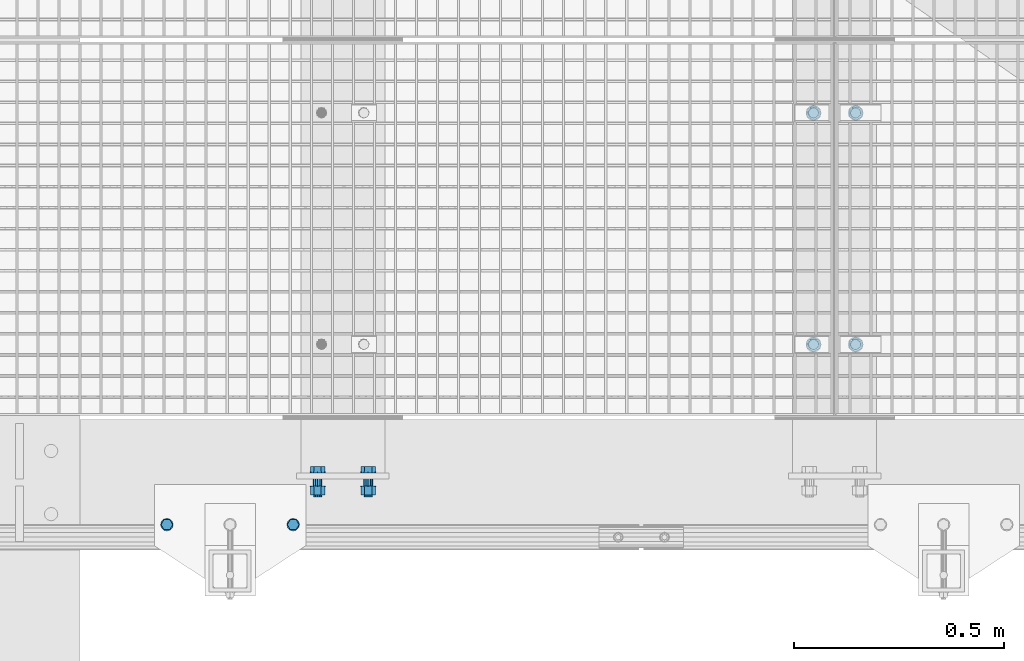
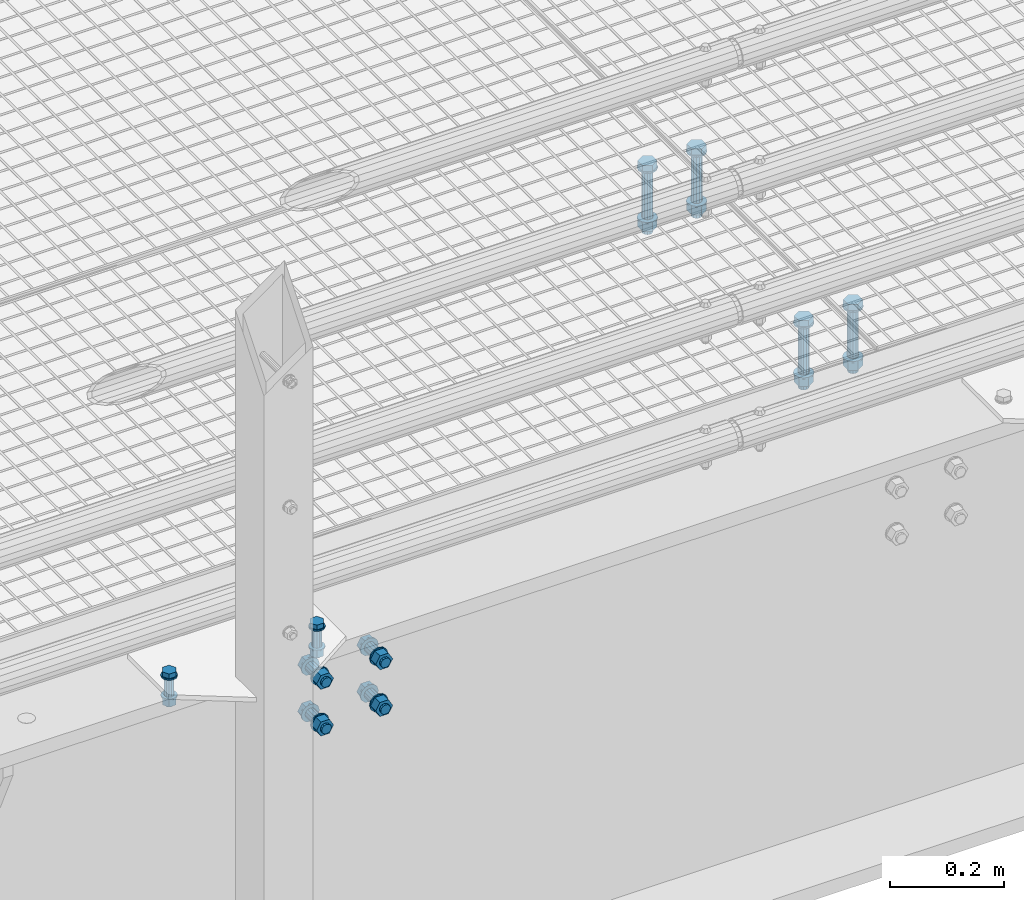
# One storey, part 24 of 1530: 4 mechanical fasteners.
"""IFC2X3 building model written with IfcOpenShell, lengths in millimetres."""

from ifc_helpers import new_model, si_unit, frame, origin_with_axes, place, context, subcontext, project, spatial, faceted_brep, source, transform, mapped, material, type_object, element, save


model = new_model("IFC2X3")

# Units and contexts
model_context = context("Model", 3, precision=1e-05, world=origin_with_axes())
body_context = subcontext(model_context, "Body", "Model", "MODEL_VIEW")
ifc_project = project(units=[si_unit("LENGTHUNIT", "METRE", prefix="MILLI"), si_unit("AREAUNIT", "SQUARE_METRE"), si_unit("VOLUMEUNIT", "CUBIC_METRE"), si_unit("MASSUNIT", "GRAM", prefix="KILO"), si_unit("TIMEUNIT", "SECOND"), si_unit("PLANEANGLEUNIT", "RADIAN"), si_unit("SOLIDANGLEUNIT", "STERADIAN"), si_unit("THERMODYNAMICTEMPERATUREUNIT", "DEGREE_CELSIUS"), si_unit("LUMINOUSINTENSITYUNIT", "LUMEN")], contexts=[model_context])

# Site, building, storey
site_placement = place(None, origin_with_axes())
site = spatial("IfcSite", under=ifc_project, at=site_placement, Name="Brattvåg", CompositionType="ELEMENT")
building_placement = place(site_placement, origin_with_axes())
building = spatial("IfcBuilding", under=site, at=building_placement, Name="Undefined", CompositionType="ELEMENT")
storey_placement = place(building_placement, origin_with_axes())
storey = spatial("IfcBuildingStorey", under=building, at=storey_placement, Name="Undefined", CompositionType="ELEMENT", Elevation=0.0)

# Mechanical fasteners
ifc_material = material(Name="8")
mechanical_fastener_type = type_object("IfcMechanicalFastenerType", Name="Bolt assembly")
shared_shape_1 = source(origin_with_axes(), body_context, "Body", "Brep", [
    faceted_brep([(17.3205080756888, -10.5, 0.0), (8.66025403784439, -10.5, 15.0), (-8.66025403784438, -10.5, 15.0), (-17.3205080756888, -10.5, 2.12115047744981e-15), (-8.66025403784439, -10.5, -15.0), (8.66025403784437, -10.5, -15.0), (8.66025403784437, 2.0, -15.0), (-8.66025403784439, 2.0, -15.0), (-17.3205080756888, 2.0, 2.12115047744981e-15), (-8.66025403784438, 2.0, 15.0), (8.66025403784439, 2.0, 15.0), (17.3205080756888, 2.0, 0.0), (10.0, 2.0, 0.0), (8.66025403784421, 2.0, 5.0000000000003), (4.9999999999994, 2.0, 8.66025403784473), (-1.03633598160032e-12, 2.0, 10.0), (-5.00000000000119, 2.0, 8.6602540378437), (-8.66025403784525, 2.0, 4.99999999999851), (-10.0, 2.0, -2.07267196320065e-12), (-8.66025403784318, 2.0, -5.00000000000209), (-4.99999999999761, 2.0, -8.66025403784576), (3.09790571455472e-12, 2.0, -10.0), (5.00000000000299, 2.0, -8.66025403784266), (8.66025403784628, 2.0, -4.99999999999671), (8.66025403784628, 142.0, -4.99999999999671), (5.00000000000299, 142.0, -8.66025403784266), (3.09790571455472e-12, 142.0, -10.0), (-4.99999999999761, 142.0, -8.66025403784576), (-8.66025403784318, 142.0, -5.00000000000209), (-10.0, 142.0, -2.07267196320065e-12), (-8.66025403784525, 142.0, 4.99999999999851), (-5.00000000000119, 142.0, 8.6602540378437), (-1.03633598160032e-12, 142.0, 10.0), (4.9999999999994, 142.0, 8.66025403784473), (8.66025403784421, 142.0, 5.0000000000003), (10.0, 142.0, 0.0), (18.5, 2.0, 0.0), (16.0214699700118, 2.0, 9.25000000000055), (9.2499999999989, 2.0, 16.0214699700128), (-1.9172215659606e-12, 2.0, 18.5), (-9.25000000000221, 2.0, 16.0214699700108), (-16.0214699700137, 2.0, 9.24999999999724), (-18.5, 2.0, -3.83444313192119e-12), (-16.0214699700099, 2.0, -9.25000000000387), (-9.24999999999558, 2.0, -16.0214699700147), (5.73112557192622e-12, 2.0, -18.5), (9.25000000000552, 2.0, -16.0214699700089), (16.0214699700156, 2.0, -9.24999999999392), (16.0214699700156, 5.0, -9.24999999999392), (9.25000000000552, 5.0, -16.0214699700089), (5.73112557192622e-12, 5.0, -18.5), (-9.24999999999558, 5.0, -16.0214699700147), (-16.0214699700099, 5.0, -9.25000000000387), (-18.5, 5.0, -3.83444313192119e-12), (-16.0214699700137, 5.0, 9.24999999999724), (-9.25000000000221, 5.0, 16.0214699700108), (-1.9172215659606e-12, 5.0, 18.5), (9.2499999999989, 5.0, 16.0214699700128), (16.0214699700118, 5.0, 9.25000000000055), (18.5, 5.0, 0.0), (18.5, 109.998931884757, 0.0), (16.0214699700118, 109.998931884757, 9.25000000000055), (9.2499999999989, 109.998931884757, 16.0214699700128), (-1.9172215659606e-12, 109.998931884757, 18.5), (-9.25000000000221, 109.998931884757, 16.0214699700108), (-16.0214699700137, 109.998931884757, 9.24999999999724), (-18.5, 109.998931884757, -3.83444313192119e-12), (-16.0214699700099, 109.998931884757, -9.25000000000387), (-9.24999999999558, 109.998931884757, -16.0214699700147), (5.73112557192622e-12, 109.998931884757, -18.5), (9.25000000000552, 109.998931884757, -16.0214699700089), (16.0214699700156, 109.998931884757, -9.24999999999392), (16.0214699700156, 112.998931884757, -9.24999999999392), (9.25000000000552, 112.998931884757, -16.0214699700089), (5.73112557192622e-12, 112.998931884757, -18.5), (-9.24999999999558, 112.998931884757, -16.0214699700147), (-16.0214699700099, 112.998931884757, -9.25000000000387), (-18.5, 112.998931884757, -3.83444313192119e-12), (-16.0214699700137, 112.998931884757, 9.24999999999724), (-9.25000000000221, 112.998931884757, 16.0214699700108), (-1.9172215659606e-12, 112.998931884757, 18.5), (9.2499999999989, 112.998931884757, 16.0214699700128), (16.0214699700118, 112.998931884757, 9.25000000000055), (18.5, 112.998931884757, 0.0), (17.3205080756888, 112.998931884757, 0.0), (8.66025403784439, 112.998931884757, 15.0), (-8.66025403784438, 112.998931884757, 15.0), (-17.3205080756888, 112.998931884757, 2.12115047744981e-15), (-8.66025403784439, 112.998931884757, -15.0), (8.66025403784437, 112.998931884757, -15.0), (8.66025403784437, 130.998931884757, -15.0), (-8.66025403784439, 130.998931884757, -15.0), (-17.3205080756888, 130.998931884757, 2.12115047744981e-15), (-8.66025403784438, 130.998931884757, 15.0), (8.66025403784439, 130.998931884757, 15.0), (17.3205080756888, 130.998931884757, 0.0)], [[[0, 1, 2, 3, 4, 5]], [[6, 7, 8, 9, 10, 11]], [[0, 11, 10, 1]], [[1, 10, 9, 2]], [[2, 9, 8, 3]], [[3, 8, 7, 4]], [[4, 7, 6, 5]], [[5, 6, 11, 0]], [[12, 13, 14, 15, 16, 17, 18, 19, 20, 21, 22, 23]], [[24, 25, 26, 27, 28, 29, 30, 31, 32, 33, 34, 35]], [[12, 35, 34, 13]], [[13, 34, 33, 14]], [[14, 33, 32, 15]], [[15, 32, 31, 16]], [[16, 31, 30, 17]], [[17, 30, 29, 18]], [[18, 29, 28, 19]], [[19, 28, 27, 20]], [[20, 27, 26, 21]], [[21, 26, 25, 22]], [[22, 25, 24, 23]], [[23, 24, 35, 12]], [[36, 37, 38, 39, 40, 41, 42, 43, 44, 45, 46, 47]], [[48, 49, 50, 51, 52, 53, 54, 55, 56, 57, 58, 59]], [[36, 59, 58, 37]], [[37, 58, 57, 38]], [[38, 57, 56, 39]], [[39, 56, 55, 40]], [[40, 55, 54, 41]], [[41, 54, 53, 42]], [[42, 53, 52, 43]], [[43, 52, 51, 44]], [[44, 51, 50, 45]], [[45, 50, 49, 46]], [[46, 49, 48, 47]], [[47, 48, 59, 36]], [[60, 61, 62, 63, 64, 65, 66, 67, 68, 69, 70, 71]], [[72, 73, 74, 75, 76, 77, 78, 79, 80, 81, 82, 83]], [[60, 83, 82, 61]], [[61, 82, 81, 62]], [[62, 81, 80, 63]], [[63, 80, 79, 64]], [[64, 79, 78, 65]], [[65, 78, 77, 66]], [[66, 77, 76, 67]], [[67, 76, 75, 68]], [[68, 75, 74, 69]], [[69, 74, 73, 70]], [[70, 73, 72, 71]], [[71, 72, 83, 60]], [[84, 85, 86, 87, 88, 89]], [[90, 91, 92, 93, 94, 95]], [[84, 95, 94, 85]], [[85, 94, 93, 86]], [[86, 93, 92, 87]], [[87, 92, 91, 88]], [[88, 91, 90, 89]], [[89, 90, 95, 84]]]),
])
for number, where, z_axis, x_axis, name in (
    (1, (14636.0047793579, 327.919311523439, -25.0), (-1.0, 1.99999855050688e-09, 0.0), (0.0, 1.0, 0.0), "Bolt assembly"),
    (2, (14536.0148773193, 327.920486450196, -25.0), (-1.0, 1.99999855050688e-09, 0.0), (0.0, 1.0, 0.0), "Bolt assembly"),
):
    element("IfcMechanicalFastener", number, at=place(storey_placement, frame(where, z_axis=z_axis, x_axis=x_axis)), inside=storey, type_object=mechanical_fastener_type, material=ifc_material, Name=name, NominalDiameter=20.0, NominalLength=140.0, context=body_context, shape_type="MappedRepresentation", body=[
        mapped(shared_shape_1, transform((0.0, 0.0, 0.0))),
        mapped(shared_shape_1, transform((549.999999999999, 0.0, 0.0))),
    ])
shared_shape_2 = source(origin_with_axes(), body_context, "Body", "Brep", [
    faceted_brep([(13.856406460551, -13.0, 0.0), (6.92820323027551, -13.0, 12.0), (-6.92820323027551, -13.0, 12.0), (-13.856406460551, -13.0, 1.69692038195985e-15), (-6.92820323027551, -13.0, -12.0), (6.9282032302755, -13.0, -12.0), (6.9282032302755, -3.0, -12.0), (-6.92820323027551, -3.0, -12.0), (-13.856406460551, -3.0, 1.69692038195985e-15), (-6.92820323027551, -3.0, 12.0), (6.92820323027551, -3.0, 12.0), (13.856406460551, -3.0, 0.0), (8.0, -3.0, 0.0), (6.92820323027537, -3.0, 4.00000000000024), (3.99999999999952, -3.0, 6.92820323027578), (-8.29068785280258e-13, -3.0, 8.0), (-4.00000000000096, -3.0, 6.92820323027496), (-6.9282032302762, -3.0, 3.99999999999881), (-8.0, -3.0, -1.65813757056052e-12), (-6.92820323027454, -3.0, -4.00000000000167), (-3.99999999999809, -3.0, -6.92820323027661), (2.47832457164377e-12, -3.0, -8.0), (4.00000000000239, -3.0, -6.92820323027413), (6.92820323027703, -3.0, -3.99999999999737), (6.92820323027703, 62.0000000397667, -3.99999999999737), (4.00000000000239, 62.0000000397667, -6.92820323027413), (2.47832457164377e-12, 62.0000000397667, -8.0), (-3.99999999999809, 62.0000000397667, -6.92820323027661), (-6.92820323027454, 62.0000000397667, -4.00000000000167), (-8.0, 62.0000000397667, -1.65813757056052e-12), (-6.9282032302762, 62.0000000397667, 3.99999999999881), (-4.00000000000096, 62.0000000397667, 6.92820323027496), (-8.29068785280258e-13, 62.0000000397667, 8.0), (3.99999999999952, 62.0000000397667, 6.92820323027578), (6.92820323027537, 62.0000000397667, 4.00000000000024), (8.0, 62.0000000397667, 0.0), (15.0, -3.0, 0.0), (12.9903810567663, -3.0, 7.50000000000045), (7.4999999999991, -3.0, 12.9903810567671), (-1.55450397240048e-12, -3.0, 15.0), (-7.50000000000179, -3.0, 12.9903810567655), (-12.9903810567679, -3.0, 7.49999999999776), (-15.0, -3.0, -3.10900794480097e-12), (-12.9903810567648, -3.0, -7.50000000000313), (-7.49999999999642, -3.0, -12.9903810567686), (4.64685857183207e-12, -3.0, -15.0), (7.50000000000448, -3.0, -12.990381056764), (12.9903810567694, -3.0, -7.49999999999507), (12.9903810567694, 0.0, -7.49999999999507), (7.50000000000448, 0.0, -12.990381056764), (0.0, 0.0, -15.0), (-7.49999999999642, 0.0, -12.9903810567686), (-12.9903810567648, 0.0, -7.50000000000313), (-15.0, 0.0, -3.10900794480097e-12), (-12.9903810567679, 0.0, 7.49999999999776), (-7.50000000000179, 0.0, 12.9903810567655), (0.0, 0.0, 15.0), (7.4999999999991, 0.0, 12.9903810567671), (12.9903810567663, 0.0, 7.50000000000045), (15.0, 0.0, 0.0), (15.0, 39.9997390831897, 0.0), (12.9903810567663, 39.9997390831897, 7.50000000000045), (7.4999999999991, 39.9997390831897, 12.9903810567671), (-1.55450397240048e-12, 39.9997390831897, 15.0), (-7.50000000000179, 39.9997390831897, 12.9903810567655), (-12.9903810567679, 39.9997390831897, 7.49999999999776), (-15.0, 39.9997390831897, -3.10900794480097e-12), (-12.9903810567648, 39.9997390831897, -7.50000000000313), (-7.49999999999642, 39.9997390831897, -12.9903810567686), (4.64685857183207e-12, 39.9997390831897, -15.0), (7.50000000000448, 39.9997390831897, -12.990381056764), (12.9903810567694, 39.9997390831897, -7.49999999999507), (12.9903810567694, 42.9997390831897, -7.49999999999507), (7.50000000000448, 42.9997390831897, -12.990381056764), (4.64685857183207e-12, 42.9997390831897, -15.0), (-7.49999999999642, 42.9997390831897, -12.9903810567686), (-12.9903810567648, 42.9997390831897, -7.50000000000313), (-15.0, 42.9997390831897, -3.10900794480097e-12), (-12.9903810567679, 42.9997390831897, 7.49999999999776), (-7.50000000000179, 42.9997390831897, 12.9903810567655), (-1.55450397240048e-12, 42.9997390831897, 15.0), (7.4999999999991, 42.9997390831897, 12.9903810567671), (12.9903810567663, 42.9997390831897, 7.50000000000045), (15.0, 42.9997390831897, 0.0), (13.856406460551, 42.9997390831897, 0.0), (6.92820323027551, 42.9997390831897, 12.0), (-6.92820323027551, 42.9997390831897, 12.0), (-13.856406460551, 42.9997390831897, 1.69692038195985e-15), (-6.92820323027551, 42.9997390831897, -12.0), (6.9282032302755, 42.9997390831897, -12.0), (6.9282032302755, 57.7997392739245, -12.0), (-6.92820323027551, 57.7997392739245, -12.0), (-13.856406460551, 57.7997392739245, 1.69692038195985e-15), (-6.92820323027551, 57.7997392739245, 12.0), (6.92820323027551, 57.7997392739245, 12.0), (13.856406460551, 57.7997392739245, 0.0)], [[[0, 1, 2, 3, 4, 5]], [[6, 7, 8, 9, 10, 11]], [[0, 11, 10, 1]], [[1, 10, 9, 2]], [[2, 9, 8, 3]], [[3, 8, 7, 4]], [[4, 7, 6, 5]], [[5, 6, 11, 0]], [[12, 13, 14, 15, 16, 17, 18, 19, 20, 21, 22, 23]], [[24, 25, 26, 27, 28, 29, 30, 31, 32, 33, 34, 35]], [[12, 35, 34, 13]], [[13, 34, 33, 14]], [[14, 33, 32, 15]], [[15, 32, 31, 16]], [[16, 31, 30, 17]], [[17, 30, 29, 18]], [[18, 29, 28, 19]], [[19, 28, 27, 20]], [[20, 27, 26, 21]], [[21, 26, 25, 22]], [[22, 25, 24, 23]], [[23, 24, 35, 12]], [[36, 37, 38, 39, 40, 41, 42, 43, 44, 45, 46, 47]], [[48, 49, 50, 51, 52, 53, 54, 55, 56, 57, 58, 59]], [[36, 59, 58, 37]], [[37, 58, 57, 38]], [[38, 57, 56, 39]], [[39, 56, 55, 40]], [[40, 55, 54, 41]], [[41, 54, 53, 42]], [[42, 53, 52, 43]], [[43, 52, 51, 44]], [[44, 51, 50, 45]], [[45, 50, 49, 46]], [[46, 49, 48, 47]], [[47, 48, 59, 36]], [[60, 61, 62, 63, 64, 65, 66, 67, 68, 69, 70, 71]], [[72, 73, 74, 75, 76, 77, 78, 79, 80, 81, 82, 83]], [[60, 83, 82, 61]], [[61, 82, 81, 62]], [[62, 81, 80, 63]], [[63, 80, 79, 64]], [[64, 79, 78, 65]], [[65, 78, 77, 66]], [[66, 77, 76, 67]], [[67, 76, 75, 68]], [[68, 75, 74, 69]], [[69, 74, 73, 70]], [[70, 73, 72, 71]], [[71, 72, 83, 60]], [[84, 85, 86, 87, 88, 89]], [[90, 91, 92, 93, 94, 95]], [[84, 95, 94, 85]], [[85, 94, 93, 86]], [[86, 93, 92, 87]], [[87, 92, 91, 88]], [[88, 91, 90, 89]], [[89, 90, 95, 84]]]),
    faceted_brep([(9.0, 0.1, 0.0), (7.79422863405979, 0.1, 4.50000000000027), (4.49999999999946, 0.1, 7.79422863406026), (-9.3270238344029e-13, 0.1, 9.0), (-4.50000000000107, 0.1, 7.79422863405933), (-7.79422863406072, 0.1, 4.49999999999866), (-9.0, 0.1, -1.86540476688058e-12), (-7.79422863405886, 0.1, -4.50000000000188), (-4.49999999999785, 0.1, -7.79422863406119), (2.78811514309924e-12, 0.1, -9.0), (4.50000000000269, 0.1, -7.7942286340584), (7.79422863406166, 0.1, -4.49999999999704), (7.79422863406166, 10.1, -4.49999999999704), (4.50000000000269, 10.1, -7.7942286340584), (2.78811514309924e-12, 10.1, -9.0), (-4.49999999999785, 10.1, -7.79422863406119), (-7.79422863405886, 10.1, -4.50000000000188), (-9.0, 10.1, -1.86540476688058e-12), (-7.79422863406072, 10.1, 4.49999999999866), (-4.50000000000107, 10.1, 7.79422863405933), (-9.3270238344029e-13, 10.1, 9.0), (4.49999999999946, 10.1, 7.79422863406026), (7.79422863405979, 10.1, 4.50000000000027), (9.0, 10.1, 0.0), (9.0, 9.8997390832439, 0.0), (7.79422863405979, 9.8997390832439, 4.50000000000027), (4.49999999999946, 9.8997390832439, 7.79422863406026), (-9.3270238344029e-13, 9.8997390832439, 9.0), (-4.50000000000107, 9.8997390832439, 7.79422863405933), (-7.79422863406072, 9.8997390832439, 4.49999999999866), (-9.0, 9.8997390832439, -1.86540476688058e-12), (-7.79422863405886, 9.8997390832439, -4.50000000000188), (-4.49999999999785, 9.8997390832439, -7.79422863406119), (2.78811514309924e-12, 9.8997390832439, -9.0), (4.50000000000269, 9.8997390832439, -7.7942286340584), (7.79422863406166, 9.8997390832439, -4.49999999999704), (7.79422863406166, 39.9997390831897, -4.49999999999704), (4.50000000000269, 39.9997390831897, -7.7942286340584), (2.78811514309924e-12, 39.9997390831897, -9.0), (-4.49999999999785, 39.9997390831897, -7.79422863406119), (-7.79422863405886, 39.9997390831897, -4.50000000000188), (-9.0, 39.9997390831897, -1.86540476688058e-12), (-7.79422863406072, 39.9997390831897, 4.49999999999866), (-4.50000000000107, 39.9997390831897, 7.79422863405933), (-9.3270238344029e-13, 39.9997390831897, 9.0), (4.49999999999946, 39.9997390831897, 7.79422863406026), (7.79422863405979, 39.9997390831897, 4.50000000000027), (9.0, 39.9997390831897, 0.0)], [[[0, 1, 2, 3, 4, 5, 6, 7, 8, 9, 10, 11]], [[12, 13, 14, 15, 16, 17, 18, 19, 20, 21, 22, 23]], [[0, 23, 22, 1]], [[1, 22, 21, 2]], [[2, 21, 20, 3]], [[3, 20, 19, 4]], [[4, 19, 18, 5]], [[5, 18, 17, 6]], [[6, 17, 16, 7]], [[7, 16, 15, 8]], [[8, 15, 14, 9]], [[9, 14, 13, 10]], [[10, 13, 12, 11]], [[11, 12, 23, 0]], [[24, 25, 26, 27, 28, 29, 30, 31, 32, 33, 34, 35]], [[36, 37, 38, 39, 40, 41, 42, 43, 44, 45, 46, 47]], [[24, 47, 46, 25]], [[25, 46, 45, 26]], [[26, 45, 44, 27]], [[27, 44, 43, 28]], [[28, 43, 42, 29]], [[29, 42, 41, 30]], [[30, 41, 40, 31]], [[31, 40, 39, 32]], [[32, 39, 38, 33]], [[33, 38, 37, 34]], [[34, 37, 36, 35]], [[35, 36, 47, 24]]]),
])
mechanical_fastener_1_placement = place(storey_placement, frame((13000.0008086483, -99.9996071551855, 9.99973908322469), z_axis=(0.0, 1.0, 0.0), x_axis=(1.0, 0.0, 0.0)))
element("IfcMechanicalFastener", 3, at=mechanical_fastener_1_placement, inside=storey, type_object=mechanical_fastener_type, material=ifc_material, Name="Bolt assembly", NominalDiameter=16.0, NominalLength=65.0, context=body_context, shape_type="MappedRepresentation", body=[
    mapped(shared_shape_2, transform((0.0, 0.0, 0.0))),
    mapped(shared_shape_2, transform((300.0, 0.0, 0.0))),
])
shared_shape_3 = source(origin_with_axes(), body_context, "Body", "Brep", [
    faceted_brep([(17.3205080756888, -15.5000000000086, 0.0), (8.66025403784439, -15.5000000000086, 15.0), (-8.66025403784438, -15.5000000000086, 15.0), (-17.3205080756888, -15.5000000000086, 2.12115047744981e-15), (-8.66025403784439, -15.5000000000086, -15.0), (8.66025403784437, -15.5000000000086, -15.0), (8.66025403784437, -3.00000000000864, -15.0), (-8.66025403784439, -3.00000000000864, -15.0), (-17.3205080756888, -3.00000000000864, 2.12115047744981e-15), (-8.66025403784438, -3.00000000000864, 15.0), (8.66025403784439, -3.00000000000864, 15.0), (17.3205080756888, -3.00000000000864, 0.0), (10.0, -3.00000000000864, 0.0), (8.66025403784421, -3.00000000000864, 5.0000000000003), (4.9999999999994, -3.00000000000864, 8.66025403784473), (-1.03633598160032e-12, -3.00000000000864, 10.0), (-5.00000000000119, -3.00000000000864, 8.6602540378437), (-8.66025403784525, -3.00000000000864, 4.99999999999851), (-10.0, -3.00000000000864, -2.07267196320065e-12), (-8.66025403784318, -3.00000000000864, -5.00000000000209), (-4.99999999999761, -3.00000000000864, -8.66025403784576), (3.09790571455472e-12, -3.00000000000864, -10.0), (5.00000000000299, -3.00000000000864, -8.66025403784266), (8.66025403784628, -3.00000000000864, -4.99999999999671), (8.66025403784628, 57.0, -4.99999999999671), (5.00000000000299, 57.0, -8.66025403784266), (3.09790571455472e-12, 57.0, -10.0), (-4.99999999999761, 57.0, -8.66025403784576), (-8.66025403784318, 57.0, -5.00000000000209), (-10.0, 57.0, -2.07267196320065e-12), (-8.66025403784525, 57.0, 4.99999999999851), (-5.00000000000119, 57.0, 8.6602540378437), (-1.03633598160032e-12, 57.0, 10.0), (4.9999999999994, 57.0, 8.66025403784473), (8.66025403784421, 57.0, 5.0000000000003), (10.0, 57.0, 0.0), (18.5, -3.00000000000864, 0.0), (16.0214699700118, -3.00000000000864, 9.25000000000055), (9.2499999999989, -3.00000000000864, 16.0214699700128), (-1.9172215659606e-12, -3.00000000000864, 18.5), (-9.25000000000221, -3.00000000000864, 16.0214699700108), (-16.0214699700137, -3.00000000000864, 9.24999999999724), (-18.5, -3.00000000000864, -3.83444313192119e-12), (-16.0214699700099, -3.00000000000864, -9.25000000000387), (-9.24999999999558, -3.00000000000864, -16.0214699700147), (5.73112557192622e-12, -3.00000000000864, -18.5), (9.25000000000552, -3.00000000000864, -16.0214699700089), (16.0214699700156, -3.00000000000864, -9.24999999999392), (16.0214699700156, -8.64019966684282e-12, -9.24999999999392), (9.25000000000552, -8.64019966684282e-12, -16.0214699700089), (5.73112557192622e-12, -8.64019966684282e-12, -18.5), (-9.24999999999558, -8.64019966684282e-12, -16.0214699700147), (-16.0214699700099, -8.64019966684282e-12, -9.25000000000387), (-18.5, -8.64019966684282e-12, -3.83444313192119e-12), (-16.0214699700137, -8.64019966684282e-12, 9.24999999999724), (-9.25000000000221, -8.64019966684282e-12, 16.0214699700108), (-1.9172215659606e-12, -8.64019966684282e-12, 18.5), (9.2499999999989, -8.64019966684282e-12, 16.0214699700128), (16.0214699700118, -8.64019966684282e-12, 9.25000000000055), (18.5, -8.64019966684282e-12, 0.0), (18.5, 31.0015563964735, 0.0), (16.0214699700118, 31.0015563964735, 9.25000000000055), (9.2499999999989, 31.0015563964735, 16.0214699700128), (-1.9172215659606e-12, 31.0015563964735, 18.5), (-9.25000000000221, 31.0015563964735, 16.0214699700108), (-16.0214699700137, 31.0015563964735, 9.24999999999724), (-18.5, 31.0015563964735, -3.83444313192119e-12), (-16.0214699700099, 31.0015563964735, -9.25000000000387), (-9.24999999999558, 31.0015563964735, -16.0214699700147), (5.73112557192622e-12, 31.0015563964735, -18.5), (9.25000000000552, 31.0015563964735, -16.0214699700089), (16.0214699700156, 31.0015563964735, -9.24999999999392), (16.0214699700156, 34.0015563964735, -9.24999999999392), (9.25000000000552, 34.0015563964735, -16.0214699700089), (5.73112557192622e-12, 34.0015563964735, -18.5), (-9.24999999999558, 34.0015563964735, -16.0214699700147), (-16.0214699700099, 34.0015563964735, -9.25000000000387), (-18.5, 34.0015563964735, -3.83444313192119e-12), (-16.0214699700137, 34.0015563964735, 9.24999999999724), (-9.25000000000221, 34.0015563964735, 16.0214699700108), (-1.9172215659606e-12, 34.0015563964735, 18.5), (9.2499999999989, 34.0015563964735, 16.0214699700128), (16.0214699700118, 34.0015563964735, 9.25000000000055), (18.5, 34.0015563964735, 0.0), (17.3205080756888, 34.0015563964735, 0.0), (8.66025403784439, 34.0015563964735, 15.0), (-8.66025403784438, 34.0015563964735, 15.0), (-17.3205080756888, 34.0015563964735, 2.12115047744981e-15), (-8.66025403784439, 34.0015563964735, -15.0), (8.66025403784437, 34.0015563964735, -15.0), (8.66025403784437, 52.0015563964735, -15.0), (-8.66025403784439, 52.0015563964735, -15.0), (-17.3205080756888, 52.0015563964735, 2.12115047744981e-15), (-8.66025403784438, 52.0015563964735, 15.0), (8.66025403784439, 52.0015563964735, 15.0), (17.3205080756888, 52.0015563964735, 0.0)], [[[0, 1, 2, 3, 4, 5]], [[6, 7, 8, 9, 10, 11]], [[0, 11, 10, 1]], [[1, 10, 9, 2]], [[2, 9, 8, 3]], [[3, 8, 7, 4]], [[4, 7, 6, 5]], [[5, 6, 11, 0]], [[12, 13, 14, 15, 16, 17, 18, 19, 20, 21, 22, 23]], [[24, 25, 26, 27, 28, 29, 30, 31, 32, 33, 34, 35]], [[12, 35, 34, 13]], [[13, 34, 33, 14]], [[14, 33, 32, 15]], [[15, 32, 31, 16]], [[16, 31, 30, 17]], [[17, 30, 29, 18]], [[18, 29, 28, 19]], [[19, 28, 27, 20]], [[20, 27, 26, 21]], [[21, 26, 25, 22]], [[22, 25, 24, 23]], [[23, 24, 35, 12]], [[36, 37, 38, 39, 40, 41, 42, 43, 44, 45, 46, 47]], [[48, 49, 50, 51, 52, 53, 54, 55, 56, 57, 58, 59]], [[36, 59, 58, 37]], [[37, 58, 57, 38]], [[38, 57, 56, 39]], [[39, 56, 55, 40]], [[40, 55, 54, 41]], [[41, 54, 53, 42]], [[42, 53, 52, 43]], [[43, 52, 51, 44]], [[44, 51, 50, 45]], [[45, 50, 49, 46]], [[46, 49, 48, 47]], [[47, 48, 59, 36]], [[60, 61, 62, 63, 64, 65, 66, 67, 68, 69, 70, 71]], [[72, 73, 74, 75, 76, 77, 78, 79, 80, 81, 82, 83]], [[60, 83, 82, 61]], [[61, 82, 81, 62]], [[62, 81, 80, 63]], [[63, 80, 79, 64]], [[64, 79, 78, 65]], [[65, 78, 77, 66]], [[66, 77, 76, 67]], [[67, 76, 75, 68]], [[68, 75, 74, 69]], [[69, 74, 73, 70]], [[70, 73, 72, 71]], [[71, 72, 83, 60]], [[84, 85, 86, 87, 88, 89]], [[90, 91, 92, 93, 94, 95]], [[84, 95, 94, 85]], [[85, 94, 93, 86]], [[86, 93, 92, 87]], [[87, 92, 91, 88]], [[88, 91, 90, 89]], [[89, 90, 95, 84]]]),
    faceted_brep([(11.0, 0.1, 0.0), (9.52627944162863, 0.1, 5.50000000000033), (5.49999999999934, 0.1, 9.5262794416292), (-1.13996957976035e-12, 0.1, 11.0), (-5.50000000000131, 0.1, 9.52627944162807), (-9.52627944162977, 0.1, 5.49999999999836), (-11.0, 0.1, -2.27993915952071e-12), (-9.5262794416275, 0.1, -5.5000000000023), (-5.49999999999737, 0.1, -9.52627944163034), (3.40769628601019e-12, 0.1, -11.0), (5.50000000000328, 0.1, -9.52627944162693), (9.52627944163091, 0.1, -5.49999999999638), (9.52627944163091, 15.1, -5.49999999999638), (5.50000000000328, 15.1, -9.52627944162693), (3.40769628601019e-12, 15.1, -11.0), (-5.49999999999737, 15.1, -9.52627944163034), (-9.5262794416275, 15.1, -5.5000000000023), (-11.0, 15.1, -2.27993915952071e-12), (-9.52627944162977, 15.1, 5.49999999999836), (-5.50000000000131, 15.1, 9.52627944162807), (-1.13996957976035e-12, 15.1, 11.0), (5.49999999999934, 15.1, 9.5262794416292), (9.52627944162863, 15.1, 5.50000000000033), (11.0, 15.1, 0.0), (11.0, 14.9015563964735, 0.0), (9.52627944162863, 14.9015563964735, 5.50000000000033), (5.49999999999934, 14.9015563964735, 9.5262794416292), (-1.13996957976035e-12, 14.9015563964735, 11.0), (-5.50000000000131, 14.9015563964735, 9.52627944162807), (-9.52627944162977, 14.9015563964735, 5.49999999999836), (-11.0, 14.9015563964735, -2.27993915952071e-12), (-9.5262794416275, 14.9015563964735, -5.5000000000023), (-5.49999999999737, 14.9015563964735, -9.52627944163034), (3.40769628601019e-12, 14.9015563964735, -11.0), (5.50000000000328, 14.9015563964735, -9.52627944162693), (9.52627944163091, 14.9015563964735, -5.49999999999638), (9.52627944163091, 31.0015563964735, -5.49999999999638), (5.50000000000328, 31.0015563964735, -9.52627944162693), (3.40769628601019e-12, 31.0015563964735, -11.0), (-5.49999999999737, 31.0015563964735, -9.52627944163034), (-9.5262794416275, 31.0015563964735, -5.5000000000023), (-11.0, 31.0015563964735, -2.27993915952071e-12), (-9.52627944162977, 31.0015563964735, 5.49999999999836), (-5.50000000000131, 31.0015563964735, 9.52627944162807), (-1.13996957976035e-12, 31.0015563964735, 11.0), (5.49999999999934, 31.0015563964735, 9.5262794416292), (9.52627944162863, 31.0015563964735, 5.50000000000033), (11.0, 31.0015563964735, 0.0)], [[[0, 1, 2, 3, 4, 5, 6, 7, 8, 9, 10, 11]], [[12, 13, 14, 15, 16, 17, 18, 19, 20, 21, 22, 23]], [[0, 23, 22, 1]], [[1, 22, 21, 2]], [[2, 21, 20, 3]], [[3, 20, 19, 4]], [[4, 19, 18, 5]], [[5, 18, 17, 6]], [[6, 17, 16, 7]], [[7, 16, 15, 8]], [[8, 15, 14, 9]], [[9, 14, 13, 10]], [[10, 13, 12, 11]], [[11, 12, 23, 0]], [[24, 25, 26, 27, 28, 29, 30, 31, 32, 33, 34, 35]], [[36, 37, 38, 39, 40, 41, 42, 43, 44, 45, 46, 47]], [[24, 47, 46, 25]], [[25, 46, 45, 26]], [[26, 45, 44, 27]], [[27, 44, 43, 28]], [[28, 43, 42, 29]], [[29, 42, 41, 30]], [[30, 41, 40, 31]], [[31, 40, 39, 32]], [[32, 39, 38, 33]], [[33, 38, 37, 34]], [[34, 37, 36, 35]], [[35, 36, 47, 24]]]),
])
mechanical_fastener_2_placement = place(storey_placement, frame((13478.0019683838, 23.0015563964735, -219.998836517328), z_axis=(0.0, 0.0, 1.0), x_axis=(-1.0, 1.99999855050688e-09, 0.0)))
element("IfcMechanicalFastener", 4, at=mechanical_fastener_2_placement, inside=storey, type_object=mechanical_fastener_type, material=ifc_material, Name="Bolt assembly", NominalDiameter=20.0, NominalLength=60.0, context=body_context, shape_type="MappedRepresentation", body=[
    mapped(shared_shape_3, transform((0.0, 0.0, -50.0))),
    mapped(shared_shape_3, transform((120.0, 0.0, -50.0))),
    mapped(shared_shape_3, transform((0.0, 0.0, 50.0))),
    mapped(shared_shape_3, transform((120.0, 0.0, 50.0))),
])

save(model, "model.ifc")
